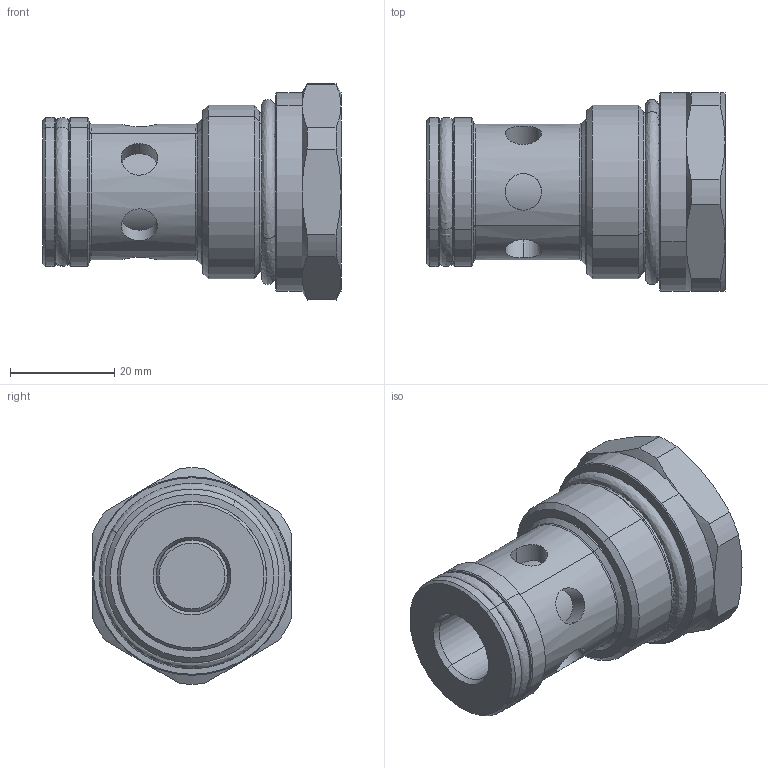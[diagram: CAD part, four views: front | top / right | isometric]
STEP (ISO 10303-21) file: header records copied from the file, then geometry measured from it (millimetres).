
FILE_DESCRIPTION (( 'STEP AP203' ), '1' );
FILE_NAME ('CVC0.S16.0Y.000.STEP', '2015-02-11T09:12:37', ( '' ), ( '' ), 'SwSTEP 2.0', 'SolidWorks 2010', '' );
FILE_SCHEMA (( 'CONFIG_CONTROL_DESIGN' ));
Length unit declared in the file: millimetre
Products named in the file (1): CVC0.S16.0Y.000
Bounding box: 57.2 x 38.1 x 41.47 mm (x, y, z)
Volume: 41517.2 mm3; surface area: 9931.5 mm2
Topology: 1 solids, 1 shells, 107 faces, 238 edges, 142 vertices
Faces by surface type: cylinder 46, cone 40, plane 11, torus 6, bspline 4
Entity records: 3919 total; most frequent: CARTESIAN_POINT 1510, DIRECTION 506, ORIENTED_EDGE 476, EDGE_CURVE 238, AXIS2_PLACEMENT_3D 216, VERTEX_POINT 142, EDGE_LOOP 116, CIRCLE 112
